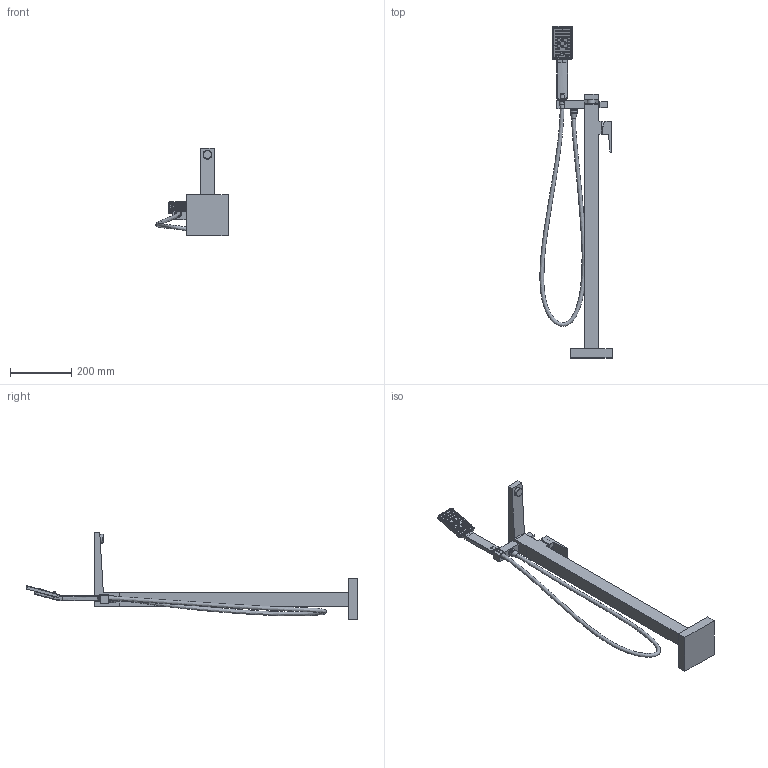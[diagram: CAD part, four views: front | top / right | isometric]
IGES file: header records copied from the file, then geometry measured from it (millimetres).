
Global section: file name: 4053ce03-b1aa-4fe1-89a1-c98f8d1075c8; native system: unknown; preprocessor: unknown; author: unknown; organization: unknown; date: 20191209.144554; units: millimetre
Bounding box: 235.02 x 1081.55 x 286.54 mm (x, y, z)
Volume: 2918634.3 mm3; surface area: 443559.3 mm2
Topology: 23 solids, 23 shells, 5043 faces, 12874 edges, 7969 vertices
Faces by surface type: bspline 5043
